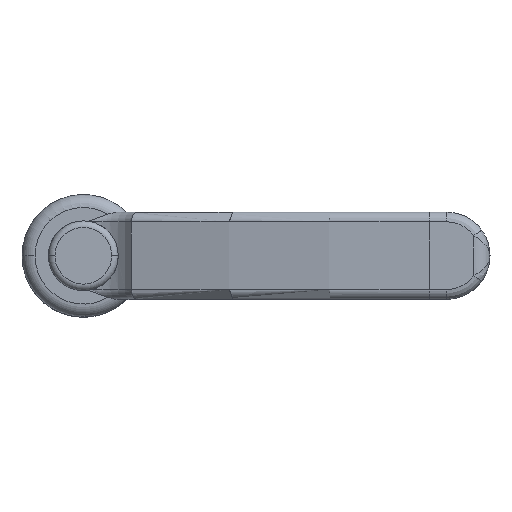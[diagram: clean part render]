
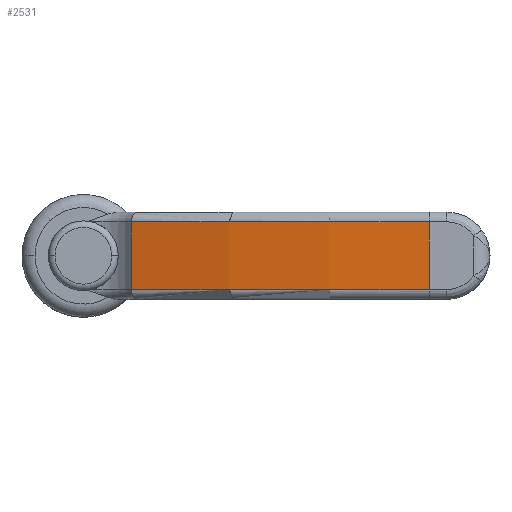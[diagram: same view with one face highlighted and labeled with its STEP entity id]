
A CAD part, top view. The second image highlights one B-rep face of the part: STEP entity #2531.
In plain terms, the highlighted cylindrical face has radius 166.65 mm (diameter 333.3 mm), a partial arc.
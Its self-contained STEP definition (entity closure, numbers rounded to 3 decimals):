
#21 = EDGE_CURVE ( 'NONE', #1523, #231, #1956, .T. ) ;
#216 = CARTESIAN_POINT ( 'NONE',  ( 53.587, -6.75, 42.957 ) ) ;
#231 = VERTEX_POINT ( 'NONE', #1538 ) ;
#413 = LINE ( 'NONE', #2871, #517 ) ;
#491 = EDGE_CURVE ( 'NONE', #1080, #2776, #2618, .T. ) ;
#517 = VECTOR ( 'NONE', #1755, 1000. ) ;
#614 = VECTOR ( 'NONE', #2198, 1000. ) ;
#640 = CARTESIAN_POINT ( 'NONE',  ( 7.461, 5.25, 36.148 ) ) ;
#908 = CARTESIAN_POINT ( 'NONE',  ( 53.587, 5.25, 42.957 ) ) ;
#1011 = CYLINDRICAL_SURFACE ( 'NONE', #1314, 166.65 ) ;
#1027 = AXIS2_PLACEMENT_3D ( 'NONE', #1819, #1111, #2724 ) ;
#1080 = VERTEX_POINT ( 'NONE', #908 ) ;
#1081 = EDGE_CURVE ( 'NONE', #1523, #2776, #413, .T. ) ;
#1111 = DIRECTION ( 'NONE',  ( 0., 1., 0. ) ) ;
#1119 = EDGE_CURVE ( 'NONE', #231, #1080, #2429, .T. ) ;
#1226 = ORIENTED_EDGE ( 'NONE', *, *, #1119, .T. ) ;
#1314 = AXIS2_PLACEMENT_3D ( 'NONE', #1459, #2120, #1442 ) ;
#1350 = AXIS2_PLACEMENT_3D ( 'NONE', #2002, #2229, #2218 ) ;
#1442 = DIRECTION ( 'NONE',  ( -1., 0., 0. ) ) ;
#1459 = CARTESIAN_POINT ( 'NONE',  ( 54.621, -6.75, -123.69 ) ) ;
#1523 = VERTEX_POINT ( 'NONE', #2727 ) ;
#1538 = CARTESIAN_POINT ( 'NONE',  ( 53.587, -5.25, 42.957 ) ) ;
#1755 = DIRECTION ( 'NONE',  ( 0., 1., 0. ) ) ;
#1782 = ORIENTED_EDGE ( 'NONE', *, *, #491, .T. ) ;
#1819 = CARTESIAN_POINT ( 'NONE',  ( 54.621, -5.25, -123.69 ) ) ;
#1956 = CIRCLE ( 'NONE', #1027, 166.65 ) ;
#1997 = EDGE_LOOP ( 'NONE', ( #1226, #1782, #2909, #2846 ) ) ;
#2002 = CARTESIAN_POINT ( 'NONE',  ( 54.621, 5.25, -123.69 ) ) ;
#2120 = DIRECTION ( 'NONE',  ( 0., 1., 0. ) ) ;
#2134 = FACE_OUTER_BOUND ( 'NONE', #1997, .T. ) ;
#2198 = DIRECTION ( 'NONE',  ( 0., 1., 0. ) ) ;
#2218 = DIRECTION ( 'NONE',  ( 1., 0., 0. ) ) ;
#2229 = DIRECTION ( 'NONE',  ( 0., -1., 0. ) ) ;
#2429 = LINE ( 'NONE', #216, #614 ) ;
#2531 = ADVANCED_FACE ( 'NONE', ( #2134 ), #1011, .T. ) ;
#2618 = CIRCLE ( 'NONE', #1350, 166.65 ) ;
#2724 = DIRECTION ( 'NONE',  ( 1., 0., 0. ) ) ;
#2727 = CARTESIAN_POINT ( 'NONE',  ( 7.461, -5.25, 36.148 ) ) ;
#2776 = VERTEX_POINT ( 'NONE', #640 ) ;
#2846 = ORIENTED_EDGE ( 'NONE', *, *, #21, .T. ) ;
#2871 = CARTESIAN_POINT ( 'NONE',  ( 7.461, -6.75, 36.148 ) ) ;
#2909 = ORIENTED_EDGE ( 'NONE', *, *, #1081, .F. ) ;
